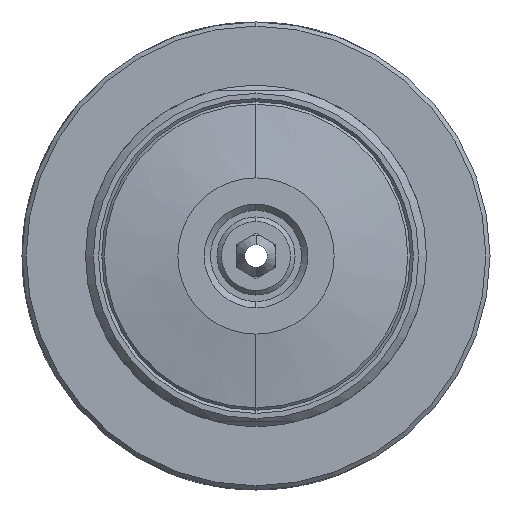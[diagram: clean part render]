
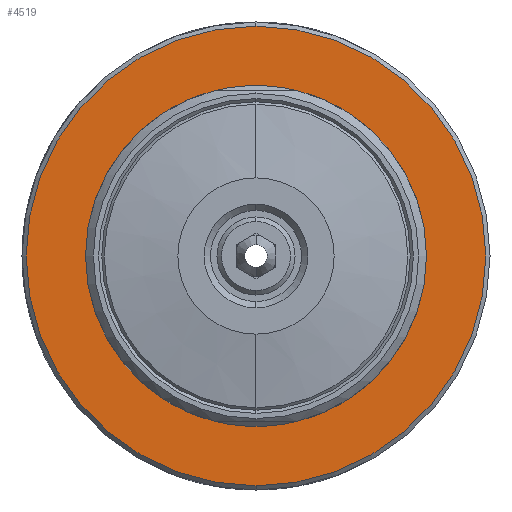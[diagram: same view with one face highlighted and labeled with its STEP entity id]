
A CAD part, left-side view. The second image highlights one B-rep face of the part: STEP entity #4519.
In plain terms, the highlighted planar face has unit normal (-1, 0, 0).
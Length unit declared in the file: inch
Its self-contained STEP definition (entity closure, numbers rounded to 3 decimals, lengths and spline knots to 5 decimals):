
#4015 = EDGE_CURVE ( 'NONE', #4277, #4016, #7780, .T. ) ;
#4016 = VERTEX_POINT ( 'NONE', #7776 ) ;
#4036 = VERTEX_POINT ( 'NONE', #7863 ) ;
#4037 = VERTEX_POINT ( 'NONE', #7862 ) ;
#4039 = EDGE_CURVE ( 'NONE', #4036, #4037, #7861, .T. ) ;
#4277 = VERTEX_POINT ( 'NONE', #8386 ) ;
#4479 = EDGE_CURVE ( 'NONE', #4037, #4036, #8787, .T. ) ;
#4480 = ORIENTED_EDGE ( 'NONE', *, *, #4039, .T. ) ;
#4481 = EDGE_LOOP ( 'NONE', ( #4482, #4483 ) ) ;
#4482 = ORIENTED_EDGE ( 'NONE', *, *, #4518, .F. ) ;
#4483 = ORIENTED_EDGE ( 'NONE', *, *, #4015, .F. ) ;
#4518 = EDGE_CURVE ( 'NONE', #4016, #4277, #8631, .T. ) ;
#4519 = ADVANCED_FACE ( 'NONE', ( #8749, #8748 ), #8747, .T. ) ;
#4520 = EDGE_LOOP ( 'NONE', ( #4521, #4480 ) ) ;
#4521 = ORIENTED_EDGE ( 'NONE', *, *, #4479, .T. ) ;
#7776 = CARTESIAN_POINT ( 'NONE',  ( -0.562, 0., 0.81 ) ) ;
#7777 = DIRECTION ( 'NONE',  ( 0., 0., 1. ) ) ;
#7778 = DIRECTION ( 'NONE',  ( -1., 0., 0. ) ) ;
#7779 = AXIS2_PLACEMENT_3D ( 'NONE', #7826, #7778, #7777 ) ;
#7780 = CIRCLE ( 'NONE', #7779, 0.81 ) ;
#7826 = CARTESIAN_POINT ( 'NONE',  ( -0.562, 0., 0. ) ) ;
#7861 = CIRCLE ( 'NONE', #7891, 1.1025 ) ;
#7862 = CARTESIAN_POINT ( 'NONE',  ( -0.562, 0., -1.1025 ) ) ;
#7863 = CARTESIAN_POINT ( 'NONE',  ( -0.562, 0., 1.1025 ) ) ;
#7888 = DIRECTION ( 'NONE',  ( 0., 0., 1. ) ) ;
#7889 = DIRECTION ( 'NONE',  ( -1., 0., 0. ) ) ;
#7890 = CARTESIAN_POINT ( 'NONE',  ( -0.562, 0., 0. ) ) ;
#7891 = AXIS2_PLACEMENT_3D ( 'NONE', #7890, #7889, #7888 ) ;
#8386 = CARTESIAN_POINT ( 'NONE',  ( -0.562, 0., -0.81 ) ) ;
#8630 = AXIS2_PLACEMENT_3D ( 'NONE', #8752, #8751, #8750 ) ;
#8631 = CIRCLE ( 'NONE', #8630, 0.81 ) ;
#8743 = DIRECTION ( 'NONE',  ( 0., 0., 1. ) ) ;
#8744 = DIRECTION ( 'NONE',  ( -1., 0., 0. ) ) ;
#8745 = CARTESIAN_POINT ( 'NONE',  ( -0.562, 0.81, 0. ) ) ;
#8746 = AXIS2_PLACEMENT_3D ( 'NONE', #8745, #8744, #8743 ) ;
#8747 = PLANE ( 'NONE',  #8746 ) ;
#8748 = FACE_BOUND ( 'NONE', #4481, .T. ) ;
#8749 = FACE_OUTER_BOUND ( 'NONE', #4520, .T. ) ;
#8750 = DIRECTION ( 'NONE',  ( 0., 0., 1. ) ) ;
#8751 = DIRECTION ( 'NONE',  ( -1., 0., 0. ) ) ;
#8752 = CARTESIAN_POINT ( 'NONE',  ( -0.562, 0., 0. ) ) ;
#8783 = DIRECTION ( 'NONE',  ( 0., 0., 1. ) ) ;
#8784 = DIRECTION ( 'NONE',  ( -1., 0., 0. ) ) ;
#8785 = CARTESIAN_POINT ( 'NONE',  ( -0.562, 0., 0. ) ) ;
#8786 = AXIS2_PLACEMENT_3D ( 'NONE', #8785, #8784, #8783 ) ;
#8787 = CIRCLE ( 'NONE', #8786, 1.1025 ) ;
